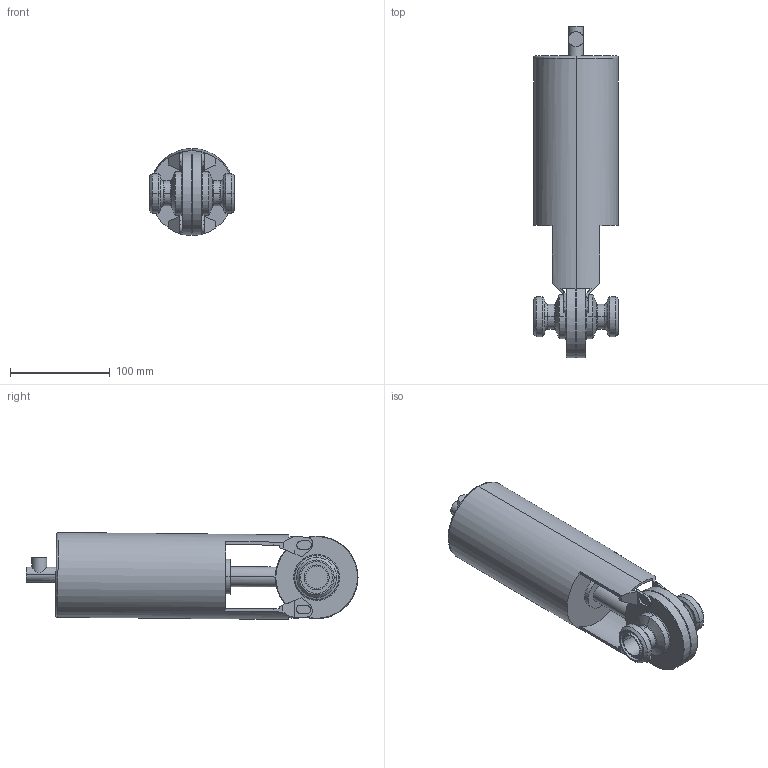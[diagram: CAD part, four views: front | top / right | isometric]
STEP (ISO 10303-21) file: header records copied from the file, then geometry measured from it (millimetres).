
FILE_DESCRIPTION(('Creo Elements/Direct Modeling STEP Export'),'2;1');
FILE_NAME('SV1-1T-FZ-12SMS.stp','2015-11-19T15:32:54',(''),(''),'PTC Creo Elements/Direct Modeling STEP processor for AP214 (Solid Model)','PTC Creo Elements/Direct Modeling 19.0B 21-Mar-2015 (C) Parametric Technology GmbH','');
FILE_SCHEMA(('AUTOMOTIVE_DESIGN { 1 0 10303 214 1 1 1 1 }'));
Length unit declared in the file: millimetre
Products named in the file (2): SV1-1T-FZ-12SMS
Assembly tree (1 placements, depth 2):
  SV1-1T-FZ-12SMS
    SV1-1T-FZ-12SMS
Bounding box: 85 x 333.22 x 87.29 mm (x, y, z)
Volume: 1165301.9 mm3; surface area: 106289.3 mm2
Topology: 1 solids, 1 shells, 172 faces, 438 edges, 279 vertices
Faces by surface type: plane 83, cylinder 55, cone 20, torus 14
Entity records: 5302 total; most frequent: CARTESIAN_POINT 1318, ORIENTED_EDGE 876, DIRECTION 784, EDGE_CURVE 438, AXIS2_PLACEMENT_3D 285, VERTEX_POINT 279, VECTOR 214, LINE 214
